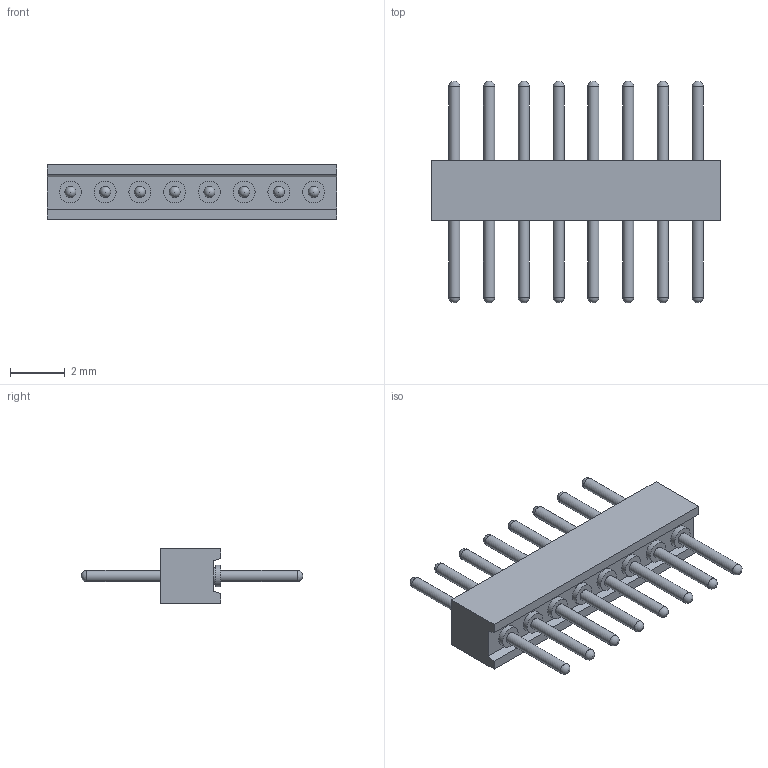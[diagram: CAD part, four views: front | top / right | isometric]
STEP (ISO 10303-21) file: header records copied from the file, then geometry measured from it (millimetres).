
FILE_DESCRIPTION(/* description */ (''),/* implementation_level */ '2;1');
FILE_NAME(/* name */ 'PZ127-1-08-Z-2.2-XX-C(L8.1) (1.27 单排 直针 塑高2.2 反装 上针、下针0.4-HCTL).stp',/* time_stamp */ '2026-10-22T15:44:56+08:00',/* author */ (''),/* organization */ (''),/* preprocessor_version */ 'ST-DEVELOPER v16',/* originating_system */ 'SIEMENS PLM Software NX 10.0',/* authorisation */ '');
FILE_SCHEMA (('AUTOMOTIVE_DESIGN { 1 0 10303 214 3 1 1 1 }'));
Length unit declared in the file: millimetre
Products named in the file (1): PZ127-1-N-Z-2.2-XX-C(L8.1) (1.27 单排 直针 \X2\5851
9AD8\X0\2.2 反装 上针、下针0.4-HCTL)
Bounding box: 10.57 x 8.1 x 2 mm (x, y, z)
Volume: 50.1 mm3; surface area: 177.3 mm2
Topology: 2 solids, 2 shells, 90 faces, 216 edges, 144 vertices
Faces by surface type: cylinder 40, plane 26, sphere 16, cone 8
Full cylindrical faces by diameter (mm): 0.41 x16, 0.6 x16, 0.8 x8
Entity records: 1921 total; most frequent: DIRECTION 366, CARTESIAN_POINT 291, ORIENTED_EDGE 208, AXIS2_PLACEMENT_3D 171, EDGE_LOOP 170, FACE_BOUND 146, EDGE_CURVE 104, VERTEX_POINT 96
